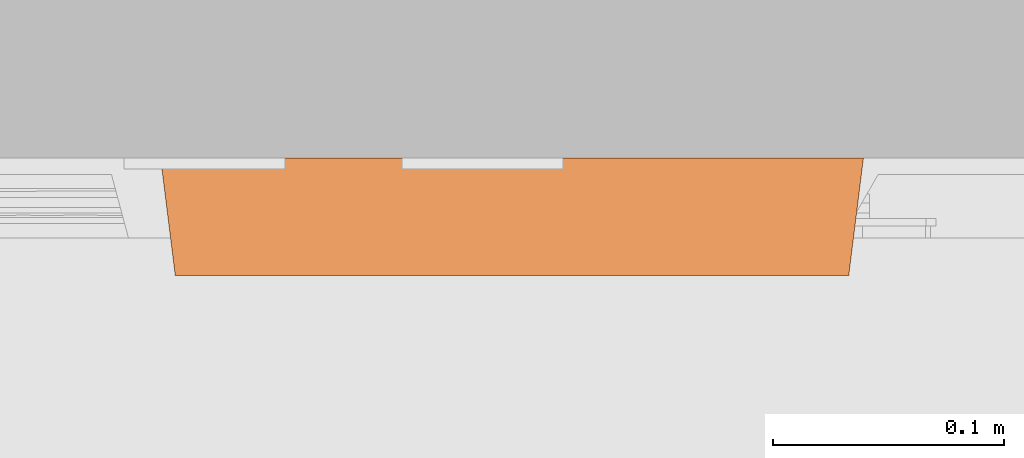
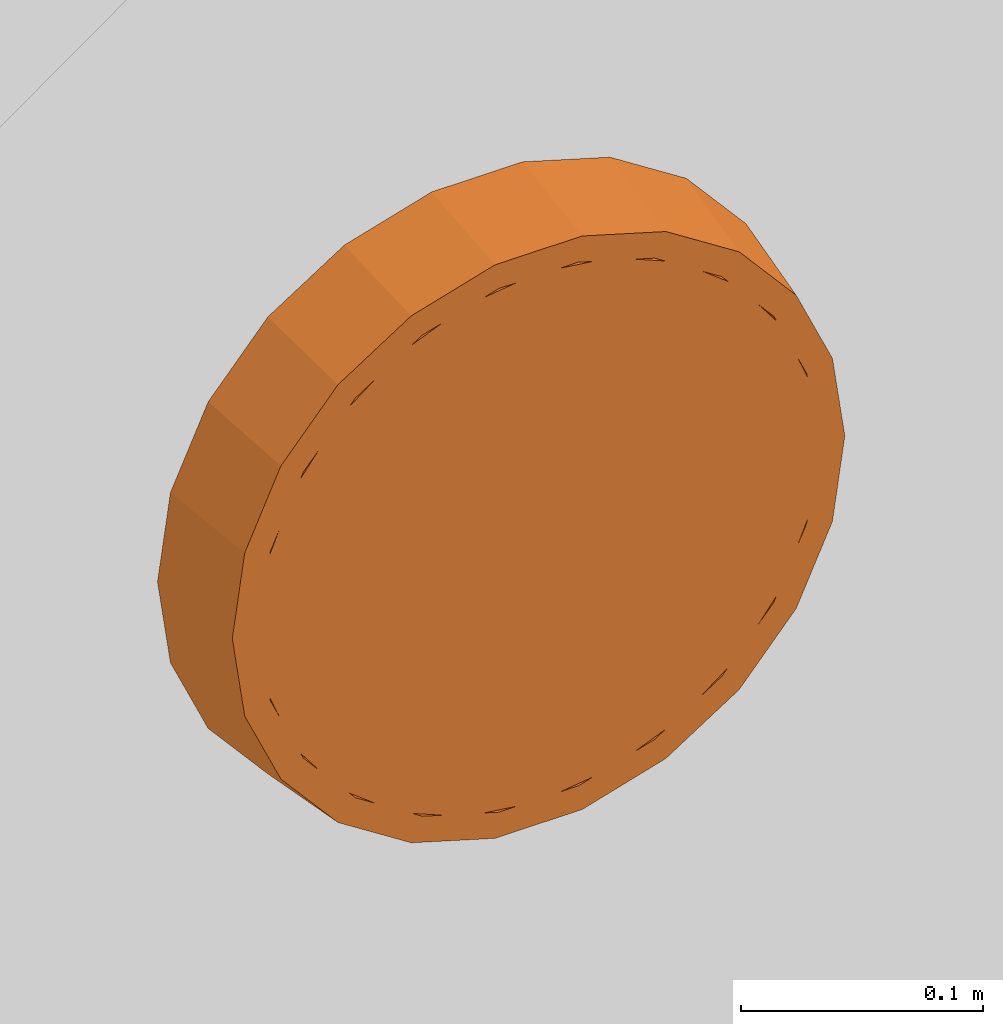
# One storey, part 9 of 10: 1 proxy.
"""IFC2X3 building model written with IfcOpenShell, lengths in feet."""

from ifc_helpers import new_model, entity, si_unit, converted_unit, derived_unit, direction, frame, origin, place, context, subcontext, project, spatial, faceted_brep, source, transform, mapped, type_object, type_shapes, element, save


model = new_model("IFC2X3")

# Units and contexts
model_context = context("Model", 3, precision=0.0001, world=origin(), true_north=direction((6.12303176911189e-17, 1.0)))
body_context = subcontext(model_context, "Body", "Model", "MODEL_VIEW")
ifc_project = project(units=[converted_unit("LENGTHUNIT", "FOOT", entity("IfcRatioMeasure", 0.3048), si_unit("LENGTHUNIT", "METRE"), dimensions=[1, 0, 0, 0, 0, 0, 0]), converted_unit("AREAUNIT", "SQUARE FOOT", entity("IfcRatioMeasure", 0.09290304), si_unit("AREAUNIT", "SQUARE_METRE"), dimensions=[2, 0, 0, 0, 0, 0, 0]), converted_unit("VOLUMEUNIT", "CUBIC FOOT", entity("IfcRatioMeasure", 0.028316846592), si_unit("VOLUMEUNIT", "CUBIC_METRE"), dimensions=[3, 0, 0, 0, 0, 0, 0]), converted_unit("PLANEANGLEUNIT", "DEGREE", entity("IfcRatioMeasure", 0.0174532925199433), si_unit("PLANEANGLEUNIT", "RADIAN"), dimensions=[0, 0, 0, 0, 0, 0, 0]), si_unit("MASSUNIT", "GRAM", prefix="KILO"), derived_unit("MASSDENSITYUNIT", [(si_unit("MASSUNIT", "GRAM", prefix="KILO"), 1), (si_unit("LENGTHUNIT", "METRE"), -3)]), si_unit("TIMEUNIT", "SECOND"), si_unit("FREQUENCYUNIT", "HERTZ"), si_unit("THERMODYNAMICTEMPERATUREUNIT", "DEGREE_CELSIUS"), derived_unit("THERMALTRANSMITTANCEUNIT", [(si_unit("MASSUNIT", "GRAM", prefix="KILO"), 1), (si_unit("THERMODYNAMICTEMPERATUREUNIT", "KELVIN"), -1), (si_unit("TIMEUNIT", "SECOND"), -3)]), derived_unit("VOLUMETRICFLOWRATEUNIT", [(si_unit("LENGTHUNIT", "METRE"), 3), (si_unit("TIMEUNIT", "SECOND"), -1)]), si_unit("ELECTRICCURRENTUNIT", "AMPERE"), si_unit("ELECTRICVOLTAGEUNIT", "VOLT"), si_unit("POWERUNIT", "WATT"), si_unit("FORCEUNIT", "NEWTON"), si_unit("ILLUMINANCEUNIT", "LUX"), si_unit("LUMINOUSFLUXUNIT", "LUMEN"), si_unit("LUMINOUSINTENSITYUNIT", "CANDELA"), derived_unit("USERDEFINED", [(si_unit("MASSUNIT", "GRAM", prefix="KILO"), -1), (si_unit("LENGTHUNIT", "METRE"), -2), (si_unit("TIMEUNIT", "SECOND"), 3), (si_unit("LUMINOUSFLUXUNIT", "LUMEN"), 1)]), derived_unit("LINEARVELOCITYUNIT", [(si_unit("LENGTHUNIT", "METRE"), 1), (si_unit("TIMEUNIT", "SECOND"), -1)]), si_unit("PRESSUREUNIT", "PASCAL"), derived_unit("USERDEFINED", [(si_unit("LENGTHUNIT", "METRE"), -2), (si_unit("MASSUNIT", "GRAM", prefix="KILO"), 1), (si_unit("TIMEUNIT", "SECOND"), -2)])], contexts=[model_context])

# Site, building, storey, space
site_placement = place(None, origin())
site = spatial("IfcSite", under=ifc_project, at=site_placement, Name="Default", CompositionType="ELEMENT")
building_placement = place(site_placement, origin())
building = spatial("IfcBuilding", under=site, at=building_placement, Name="OUTPATIENT / PACT CLINIC (Ch. 265)", CompositionType="ELEMENT")
storey_placement = place(building_placement, origin())
storey = spatial("IfcBuildingStorey", under=building, at=storey_placement, Name="DATUM", CompositionType="ELEMENT", Elevation=0.0)
space_placement = place(storey_placement, origin())
space = spatial("IfcSpace", under=storey, at=space_placement, Name="OFDC2", CompositionType="ELEMENT", InteriorOrExteriorSpace="INTERNAL")

# Proxy
building_element_proxy_type = type_object("IfcBuildingElementProxyType", Name="F3200 - Clock, Battery, 12in Dia", PredefinedType="NOTDEFINED")
shared_shape = source(origin(), body_context, "Body", "Brep", [
    faceted_brep([(0.0527623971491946, -0.166666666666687, -0.0087350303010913), (0.143371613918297, -0.166666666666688, 0.0607918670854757), (0.212898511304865, -0.16666666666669, 0.151401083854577), (0.256604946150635, -0.166666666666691, 0.256917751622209), (0.271512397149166, -0.166666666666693, 0.370151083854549), (0.256604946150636, -0.166666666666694, 0.483384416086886), (0.212898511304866, -0.166666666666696, 0.588901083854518), (0.143371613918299, -0.166666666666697, 0.67951030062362), (0.052762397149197, -0.166666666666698, 0.749037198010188), (-0.0527542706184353, -0.166666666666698, 0.792743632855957), (-0.165987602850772, -0.166666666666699, 0.807651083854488), (-0.279220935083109, -0.166666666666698, 0.792743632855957), (-0.384737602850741, -0.166666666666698, 0.749037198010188), (-0.475346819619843, -0.166666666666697, 0.679510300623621), (-0.544873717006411, -0.166666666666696, 0.588901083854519), (-0.588580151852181, -0.166666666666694, 0.483384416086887), (-0.603487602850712, -0.166666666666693, 0.37015108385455), (-0.588580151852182, -0.166666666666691, 0.256917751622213), (-0.544873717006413, -0.16666666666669, 0.151401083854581), (-0.475346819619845, -0.166666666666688, 0.0607918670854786), (-0.384737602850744, -0.166666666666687, -0.0087350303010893), (-0.279220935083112, -0.166666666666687, -0.052441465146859), (-0.165987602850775, -0.166666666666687, -0.0673489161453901), (-0.0527542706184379, -0.166666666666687, -0.0524414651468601), (0.256604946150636, -0.145833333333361, 0.483384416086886), (0.271512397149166, -0.145833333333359, 0.370151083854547), (0.256604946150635, -0.145833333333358, 0.256917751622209), (0.212898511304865, -0.145833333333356, 0.151401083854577), (0.143371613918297, -0.145833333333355, 0.0607918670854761), (0.0527623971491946, -0.145833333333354, -0.00873503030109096), (-0.0527542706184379, -0.145833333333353, -0.0524414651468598), (-0.165987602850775, -0.145833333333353, -0.0673489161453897), (-0.279220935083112, -0.145833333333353, -0.0524414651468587), (-0.384737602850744, -0.145833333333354, -0.00873503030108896), (-0.475346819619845, -0.145833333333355, 0.060791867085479), (-0.544873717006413, -0.145833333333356, 0.151401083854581), (-0.588580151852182, -0.145833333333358, 0.256917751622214), (-0.603487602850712, -0.145833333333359, 0.37015108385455), (-0.588580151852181, -0.145833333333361, 0.483384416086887), (-0.544873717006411, -0.145833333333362, 0.588901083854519), (-0.475346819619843, -0.145833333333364, 0.679510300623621), (-0.384737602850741, -0.145833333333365, 0.749037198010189), (-0.279220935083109, -0.145833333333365, 0.792743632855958), (-0.165987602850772, -0.145833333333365, 0.807651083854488), (-0.0527542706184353, -0.145833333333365, 0.792743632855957), (0.052762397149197, -0.145833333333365, 0.749037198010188), (0.143371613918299, -0.145833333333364, 0.67951030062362), (0.212898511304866, -0.145833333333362, 0.588901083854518)], [[[0, 1, 2, 3, 4, 5, 6, 7, 8, 9, 10, 11, 12, 13, 14, 15, 16, 17, 18, 19, 20, 21, 22, 23]], [[24, 25, 26, 27, 28, 29, 30, 31, 32, 33, 34, 35, 36, 37, 38, 39, 40, 41, 42, 43, 44, 45, 46, 47]], [[36, 17, 16, 37]], [[35, 18, 17, 36]], [[20, 19, 34, 33]], [[35, 34, 19, 18]], [[21, 20, 33, 32]], [[22, 21, 32, 31]], [[30, 23, 22, 31]], [[29, 0, 23, 30]], [[2, 1, 28, 27]], [[29, 28, 1, 0]], [[3, 2, 27, 26]], [[4, 3, 26, 25]], [[24, 5, 4, 25]], [[47, 6, 5, 24]], [[8, 7, 46, 45]], [[47, 46, 7, 6]], [[9, 8, 45, 44]], [[10, 9, 44, 43]], [[11, 10, 43, 42]], [[12, 11, 42, 41]], [[14, 39, 38, 15]], [[15, 38, 37, 16]], [[12, 41, 40, 13]], [[40, 39, 14, 13]]]),
    faceted_brep([(-0.493417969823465, 0.0, -0.00772370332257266), (-0.586614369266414, 0.0, 0.0998306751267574), (-0.165987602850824, 0.0, 0.370151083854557), (-0.373695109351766, 0.0, -0.0846649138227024), (-0.645734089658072, 0.0, 0.229284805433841), (-0.665987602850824, 0.0, 0.370151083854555), (-0.645734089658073, 0.0, 0.51101736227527), (-0.586614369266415, 0.0, 0.640471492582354), (-0.493417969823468, 0.0, 0.748025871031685), (-0.373695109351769, 0.0, 0.824967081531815), (-0.237145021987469, 0.0, 0.865061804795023), (-0.0948301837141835, 0.0, 0.865061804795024), (0.0417199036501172, 0.0, 0.824967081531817), (0.161442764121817, 0.0, 0.748025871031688), (0.254639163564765, 0.0, 0.640471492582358), (0.313758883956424, 0.0, 0.511017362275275), (0.334012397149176, 0.0, 0.370151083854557), (0.313758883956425, 0.0, 0.229284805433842), (0.254639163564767, 0.0, 0.0998306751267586), (0.161442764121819, 0.0, -0.00772370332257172), (0.0417199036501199, 0.0, -0.0846649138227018), (-0.0948301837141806, 0.0, -0.124759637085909), (-0.237145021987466, 0.0, -0.124759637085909), (-0.165987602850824, -0.145833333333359, 0.370151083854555), (-0.534036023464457, -0.145833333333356, 0.133620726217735), (-0.452489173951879, -0.145833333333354, 0.0395106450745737), (-0.585765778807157, -0.145833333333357, 0.246893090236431), (-0.347731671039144, -0.145833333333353, -0.0278129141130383), (-0.228250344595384, -0.145833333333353, -0.0628957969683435), (-0.603487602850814, -0.145833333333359, 0.370151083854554), (-0.103724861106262, -0.145833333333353, -0.0628957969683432), (0.0157564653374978, -0.145833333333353, -0.0278129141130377), (0.120513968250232, -0.145833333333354, 0.0395106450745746), (0.20206081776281, -0.145833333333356, 0.133620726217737), (0.253790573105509, -0.145833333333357, 0.246893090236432), (0.271512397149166, -0.145833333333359, 0.370151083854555), (-0.585765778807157, -0.145833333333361, 0.493409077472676), (-0.534036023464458, -0.145833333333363, 0.606681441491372), (-0.452489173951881, -0.145833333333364, 0.700791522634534), (-0.347731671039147, -0.145833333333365, 0.768115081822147), (-0.228250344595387, -0.145833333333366, 0.803197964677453), (0.253790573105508, -0.145833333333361, 0.49340907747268), (0.202060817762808, -0.145833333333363, 0.606681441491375), (0.12051396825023, -0.145833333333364, 0.700791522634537), (0.0157564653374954, -0.145833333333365, 0.768115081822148), (-0.103724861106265, -0.145833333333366, 0.803197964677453), (0.253790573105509, -0.166666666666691, 0.246893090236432), (0.271512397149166, -0.166666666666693, 0.370151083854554), (0.20206081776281, -0.166666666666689, 0.133620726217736), (-0.103724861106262, -0.166666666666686, -0.0628957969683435), (0.0157564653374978, -0.166666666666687, -0.0278129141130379), (0.120513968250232, -0.166666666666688, 0.0395106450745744), (-0.228250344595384, -0.166666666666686, -0.0628957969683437), (-0.452489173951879, -0.166666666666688, 0.0395106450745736), (-0.347731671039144, -0.166666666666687, -0.0278129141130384), (-0.603487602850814, -0.166666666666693, 0.370151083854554), (-0.585765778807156, -0.166666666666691, 0.246893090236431), (-0.534036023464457, -0.166666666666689, 0.133620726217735), (-0.585765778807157, -0.166666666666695, 0.493409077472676), (-0.534036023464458, -0.166666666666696, 0.606681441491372), (-0.347731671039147, -0.166666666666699, 0.768115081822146), (-0.452489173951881, -0.166666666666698, 0.700791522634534), (-0.228250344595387, -0.166666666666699, 0.803197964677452), (-0.103724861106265, -0.166666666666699, 0.803197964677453), (0.0157564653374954, -0.166666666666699, 0.768115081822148), (0.12051396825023, -0.166666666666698, 0.700791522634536), (0.253790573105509, -0.166666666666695, 0.493409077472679), (0.202060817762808, -0.166666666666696, 0.606681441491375), (-0.62574465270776, -0.166666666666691, 0.235154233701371), (-0.64515426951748, -0.166666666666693, 0.370151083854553), (-0.569088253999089, -0.166666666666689, 0.111094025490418), (-0.479775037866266, -0.166666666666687, 0.00802107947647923), (-0.365040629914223, -0.166666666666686, -0.0657142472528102), (-0.234180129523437, -0.166666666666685, -0.104138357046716), (-0.0977950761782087, -0.166666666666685, -0.104138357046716), (0.0330654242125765, -0.166666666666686, -0.0657142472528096), (0.147799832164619, -0.166666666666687, 0.00802107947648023), (0.237113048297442, -0.166666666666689, 0.11109402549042), (0.293769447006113, -0.166666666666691, 0.235154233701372), (0.313179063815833, -0.166666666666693, 0.370151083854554), (0.293769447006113, -0.166666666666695, 0.50514793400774), (0.237113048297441, -0.166666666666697, 0.629208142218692), (0.147799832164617, -0.166666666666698, 0.732281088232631), (0.0330654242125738, -0.1666666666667, 0.80601641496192), (-0.0977950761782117, -0.1666666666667, 0.844440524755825), (-0.23418012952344, -0.1666666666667, 0.844440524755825), (-0.365040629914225, -0.1666666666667, 0.806016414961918), (-0.479775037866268, -0.166666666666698, 0.732281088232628), (-0.569088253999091, -0.166666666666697, 0.629208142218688), (-0.625744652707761, -0.166666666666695, 0.505147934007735)], [[[0, 1, 2]], [[0, 2, 3]], [[4, 2, 1]], [[2, 4, 5]], [[5, 6, 2]], [[2, 6, 7]], [[2, 7, 8]], [[2, 8, 9]], [[9, 10, 2]], [[11, 2, 10]], [[2, 11, 12]], [[2, 12, 13]], [[14, 2, 13]], [[2, 14, 15]], [[15, 16, 2]], [[2, 16, 17]], [[2, 17, 18]], [[18, 19, 2]], [[19, 20, 2]], [[21, 2, 20]], [[2, 21, 22]], [[22, 3, 2]], [[23, 24, 25]], [[24, 23, 26]], [[27, 23, 25]], [[23, 27, 28]], [[29, 26, 23]], [[28, 30, 23]], [[31, 23, 30]], [[23, 31, 32]], [[23, 32, 33]], [[33, 34, 23]], [[34, 35, 23]], [[23, 36, 29]], [[37, 36, 23]], [[38, 37, 23]], [[39, 38, 23]], [[23, 40, 39]], [[23, 35, 41]], [[41, 42, 23]], [[43, 23, 42]], [[43, 44, 23]], [[44, 45, 23]], [[40, 23, 45]], [[46, 47, 35, 34]], [[46, 34, 33, 48]], [[31, 30, 49, 50]], [[32, 31, 50, 51]], [[51, 48, 33, 32]], [[30, 28, 52, 49]], [[27, 25, 53, 54]], [[28, 27, 54, 52]], [[29, 55, 56, 26]], [[26, 56, 57, 24]], [[24, 57, 53, 25]], [[55, 29, 36, 58]], [[58, 36, 37, 59]], [[60, 61, 38, 39]], [[59, 37, 38, 61]], [[39, 40, 62, 60]], [[40, 45, 63, 62]], [[64, 63, 45, 44]], [[64, 44, 43, 65]], [[41, 35, 47, 66]], [[42, 41, 66, 67]], [[67, 65, 43, 42]], [[68, 55, 69]], [[56, 55, 68]], [[68, 70, 56]], [[70, 57, 56]], [[71, 57, 70]], [[57, 71, 53]], [[72, 53, 71]], [[54, 53, 72]], [[72, 73, 54]], [[73, 52, 54]], [[49, 52, 73]], [[73, 74, 49]], [[74, 50, 49]], [[75, 50, 74]], [[50, 75, 51]], [[76, 51, 75]], [[48, 51, 76]], [[76, 77, 48]], [[77, 46, 48]], [[78, 46, 77]], [[46, 78, 47]], [[78, 79, 47]], [[79, 80, 47]], [[66, 47, 80]], [[80, 81, 66]], [[66, 81, 67]], [[82, 67, 81]], [[67, 82, 65]], [[65, 82, 83]], [[64, 65, 83]], [[83, 84, 64]], [[64, 84, 63]], [[85, 63, 84]], [[63, 85, 62]], [[62, 85, 60]], [[86, 60, 85]], [[60, 86, 61]], [[61, 86, 87]], [[59, 61, 87]], [[87, 88, 59]], [[59, 88, 58]], [[89, 58, 88]], [[55, 89, 69]], [[58, 89, 55]], [[78, 17, 16, 79]], [[77, 18, 17, 78]], [[19, 76, 75, 20]], [[77, 76, 19, 18]], [[20, 75, 74, 21]], [[74, 73, 22, 21]], [[22, 73, 72, 3]], [[0, 3, 72, 71]], [[4, 1, 70, 68]], [[70, 1, 0, 71]], [[5, 4, 68, 69]], [[89, 6, 5, 69]], [[88, 7, 6, 89]], [[8, 87, 86, 9]], [[88, 87, 8, 7]], [[9, 86, 85, 10]], [[85, 84, 11, 10]], [[83, 12, 11, 84]], [[82, 13, 12, 83]], [[14, 81, 80, 15]], [[82, 81, 14, 13]], [[15, 80, 79, 16]]]),
])
type_shapes(building_element_proxy_type, [shared_shape])
proxy_placement = place(space_placement, frame((-71.7977100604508, -851.690450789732, 6.50000000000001)))
element("IfcBuildingElementProxy", 1, at=proxy_placement, inside=space, type_object=building_element_proxy_type, Name="F3200 - Clock, Battery, 12in Dia:F3200 - Clock, Battery, 12in Dia", ObjectType="F3200 - Clock, Battery, 12in Dia", context=body_context, shape_type="MappedRepresentation", body=[
    mapped(shared_shape, transform((0.0, 0.0, 0.0), scale=1.0)),
])

save(model, "model.ifc")
